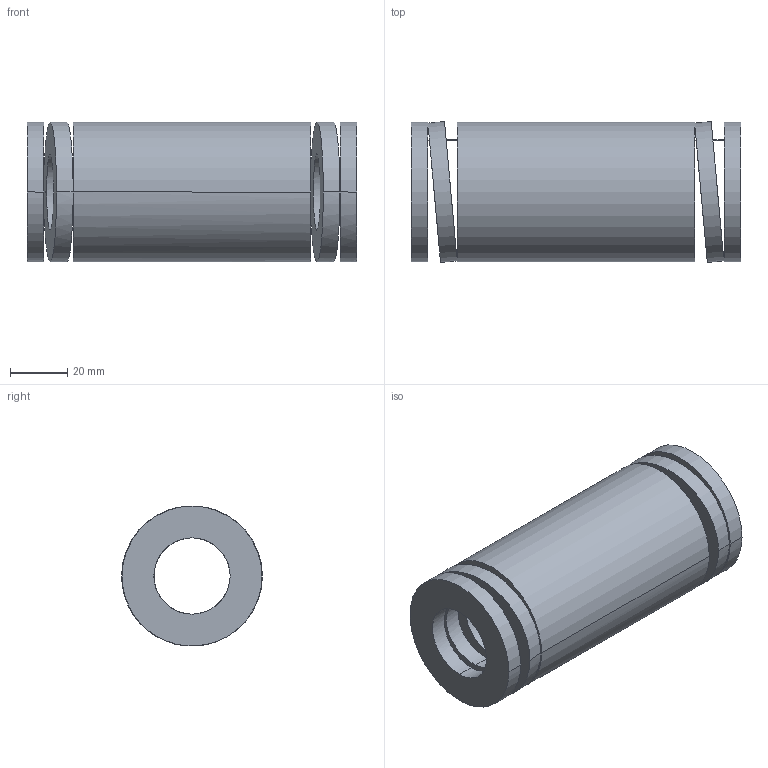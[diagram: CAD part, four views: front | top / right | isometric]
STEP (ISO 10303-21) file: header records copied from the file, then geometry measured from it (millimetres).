
FILE_DESCRIPTION(('CATIA V5 STEP Exchange'),'2;1');
FILE_NAME('C:\Users\Utente\Desktop\IO LAVORO\3D X SITO CF\X SITO\3D files 392B\392-B50-115.stp','2021-08-13T11:29:43+00:00',('none'),('none'),'CATIA Version 5 Release 20 GA (IN-10)','CATIA V5 STEP AP203','none');
FILE_SCHEMA(('CONFIG_CONTROL_DESIGN'));
Length unit declared in the file: millimetre
Products named in the file (1): 392-B50-115
Bounding box: 115 x 49.12 x 48.8 mm (x, y, z)
Volume: 139222.7 mm3; surface area: 38236.8 mm2
Topology: 1 solids, 1 shells, 38 faces, 92 edges, 64 vertices
Faces by surface type: cylinder 28, plane 10
Entity records: 1638 total; most frequent: CARTESIAN_POINT 761, ORIENTED_EDGE 184, DIRECTION 123, EDGE_CURVE 92, VERTEX_POINT 64, AXIS2_PLACEMENT_3D 58, EDGE_LOOP 56, B_SPLINE_CURVE_WITH_KNOTS 45
